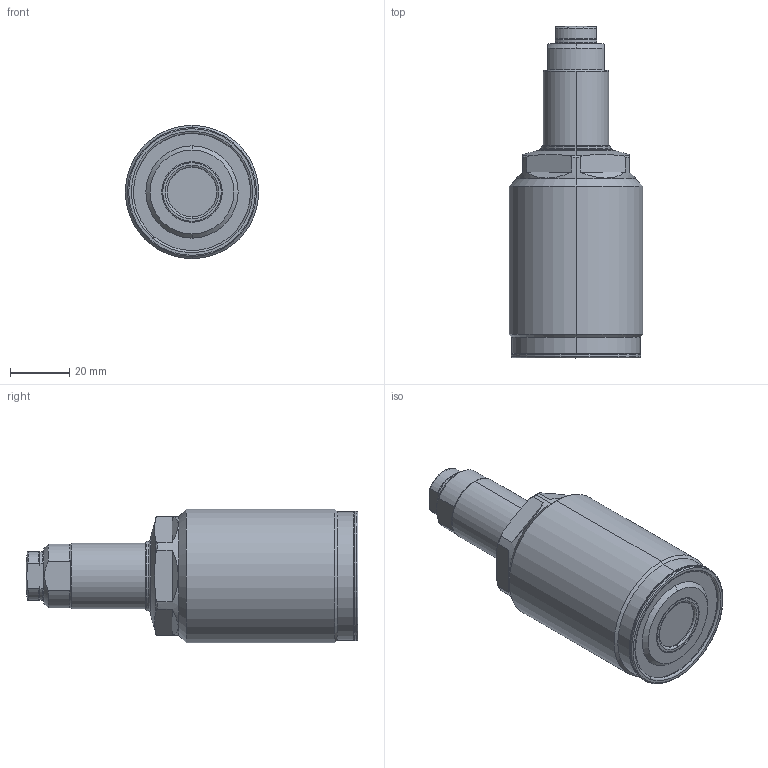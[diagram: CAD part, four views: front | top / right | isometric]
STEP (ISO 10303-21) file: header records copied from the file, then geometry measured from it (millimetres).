
FILE_DESCRIPTION(/* description */ (''),/* implementation_level */ '2;1');
FILE_NAME(/* name */ 'GSS06-Q.stp',/* time_stamp */ '2025-01-05T13:08:14+08:00',/* author */ (''),/* organization */ (''),/* preprocessor_version */ 'ST-DEVELOPER v16.7',/* originating_system */ 'SIEMENS PLM Software NX 12.0',/* authorisation */ '');
FILE_SCHEMA (('AUTOMOTIVE_DESIGN { 1 0 10303 214 3 1 1 1 }'));
Length unit declared in the file: millimetre
Products named in the file (7): AS0122625; TNC0403_ContactBolt_M122819; GSS06-Q-04; GSS06-Q-02; GSS06-Q-01; GSS06-Q-03; TNC1603-EQ_step
Assembly tree (6 placements, depth 3):
  TNC1603-EQ_step
    GSS06-Q-01
    GSS06-Q-02
    GSS06-Q-03
      TNC0403_ContactBolt_M122819
      AS0122625
    GSS06-Q-04
Bounding box: 45 x 111.9 x 45 mm (x, y, z)
Volume: 107354.7 mm3; surface area: 20179.6 mm2
Topology: 5 solids, 5 shells, 149 faces, 334 edges, 203 vertices
Faces by surface type: torus 45, cylinder 41, plane 35, cone 26, sphere 2
Entity records: 4669 total; most frequent: CARTESIAN_POINT 1111, DIRECTION 797, ORIENTED_EDGE 668, AXIS2_PLACEMENT_3D 353, EDGE_CURVE 334, VERTEX_POINT 203, CIRCLE 197, EDGE_LOOP 163
